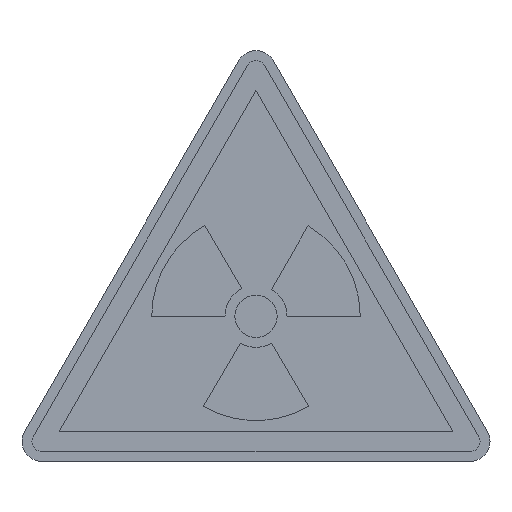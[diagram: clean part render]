
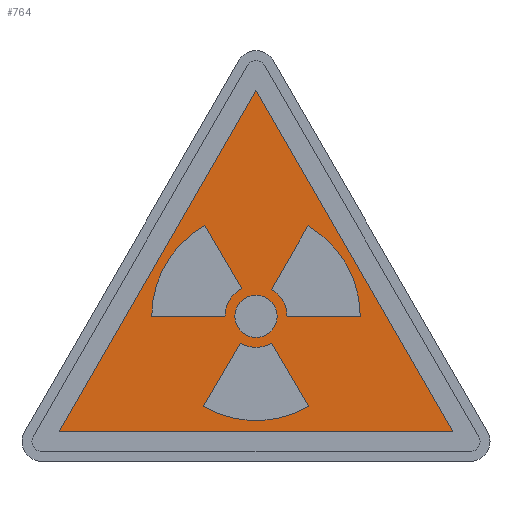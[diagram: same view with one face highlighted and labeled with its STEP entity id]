
A CAD part, top view. The second image highlights one B-rep face of the part: STEP entity #764.
In plain terms, the highlighted planar face has unit normal (0, 0, 1).
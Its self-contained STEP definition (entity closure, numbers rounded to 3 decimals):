
#3 = FACE_BOUND ( 'NONE', #1002, .T. ) ;
#8 = FACE_BOUND ( 'NONE', #1363, .T. ) ;
#13 = DIRECTION ( 'NONE',  ( 1., 0., 0. ) ) ;
#23 = CARTESIAN_POINT ( 'NONE',  ( -5.159, 23.72, 0.2 ) ) ;
#26 = FACE_BOUND ( 'NONE', #813, .T. ) ;
#49 = CARTESIAN_POINT ( 'NONE',  ( 0., 14.586, 0.2 ) ) ;
#65 = EDGE_CURVE ( 'NONE', #312, #489, #606, .T. ) ;
#68 = ORIENTED_EDGE ( 'NONE', *, *, #590, .F. ) ;
#86 = DIRECTION ( 'NONE',  ( 0., 0., 1. ) ) ;
#95 = LINE ( 'NONE', #1343, #547 ) ;
#104 = CARTESIAN_POINT ( 'NONE',  ( 1.558, 17.294, 0.2 ) ) ;
#105 = EDGE_CURVE ( 'NONE', #310, #312, #832, .T. ) ;
#114 = CARTESIAN_POINT ( 'NONE',  ( 0., 39.301, 0.2 ) ) ;
#120 = DIRECTION ( 'NONE',  ( 0., 0., 1. ) ) ;
#123 = DIRECTION ( 'NONE',  ( 0., 0., -1. ) ) ;
#127 = FACE_OUTER_BOUND ( 'NONE', #1581, .T. ) ;
#136 = EDGE_CURVE ( 'NONE', #375, #1209, #883, .T. ) ;
#144 = VERTEX_POINT ( 'NONE', #23 ) ;
#152 = ORIENTED_EDGE ( 'NONE', *, *, #136, .T. ) ;
#155 = CARTESIAN_POINT ( 'NONE',  ( -19.804, 3., 0.2 ) ) ;
#179 = EDGE_CURVE ( 'NONE', #634, #396, #518, .T. ) ;
#206 = AXIS2_PLACEMENT_3D ( 'NONE', #515, #123, #1369 ) ;
#209 = CARTESIAN_POINT ( 'NONE',  ( 19.804, 3., 0.2 ) ) ;
#220 = EDGE_CURVE ( 'NONE', #877, #780, #569, .T. ) ;
#226 = AXIS2_PLACEMENT_3D ( 'NONE', #1206, #86, #311 ) ;
#238 = ORIENTED_EDGE ( 'NONE', *, *, #711, .F. ) ;
#257 = CARTESIAN_POINT ( 'NONE',  ( -5.31, 5.538, 0.2 ) ) ;
#267 = ORIENTED_EDGE ( 'NONE', *, *, #1489, .F. ) ;
#268 = VECTOR ( 'NONE', #760, 1000. ) ;
#269 = CARTESIAN_POINT ( 'NONE',  ( -3.125, 14.586, 0.2 ) ) ;
#278 = ORIENTED_EDGE ( 'NONE', *, *, #856, .T. ) ;
#292 = VERTEX_POINT ( 'NONE', #400 ) ;
#299 = CIRCLE ( 'NONE', #538, 10.49 ) ;
#307 = VECTOR ( 'NONE', #648, 1000. ) ;
#308 = CARTESIAN_POINT ( 'NONE',  ( 19.804, 3., 0.2 ) ) ;
#309 = AXIS2_PLACEMENT_3D ( 'NONE', #114, #120, #510 ) ;
#310 = VERTEX_POINT ( 'NONE', #104 ) ;
#311 = DIRECTION ( 'NONE',  ( 1., 0., 0. ) ) ;
#312 = VERTEX_POINT ( 'NONE', #1098 ) ;
#319 = ORIENTED_EDGE ( 'NONE', *, *, #1219, .T. ) ;
#375 = VERTEX_POINT ( 'NONE', #155 ) ;
#378 = DIRECTION ( 'NONE',  ( 1., 0., 0. ) ) ;
#390 = FACE_BOUND ( 'NONE', #1167, .T. ) ;
#396 = VERTEX_POINT ( 'NONE', #1395 ) ;
#400 = CARTESIAN_POINT ( 'NONE',  ( -10.49, 14.586, 0.2 ) ) ;
#409 = CARTESIAN_POINT ( 'NONE',  ( 0., 14.586, 0.2 ) ) ;
#411 = LINE ( 'NONE', #1302, #485 ) ;
#446 = VERTEX_POINT ( 'NONE', #800 ) ;
#448 = EDGE_CURVE ( 'NONE', #489, #1058, #942, .T. ) ;
#485 = VECTOR ( 'NONE', #911, 1000. ) ;
#489 = VERTEX_POINT ( 'NONE', #575 ) ;
#493 = CARTESIAN_POINT ( 'NONE',  ( 0., 37.301, 0.2 ) ) ;
#498 = CARTESIAN_POINT ( 'NONE',  ( 1.558, 17.294, 0.2 ) ) ;
#510 = DIRECTION ( 'NONE',  ( 1., 0., 0. ) ) ;
#512 = ORIENTED_EDGE ( 'NONE', *, *, #679, .F. ) ;
#515 = CARTESIAN_POINT ( 'NONE',  ( 0., 14.586, 0.2 ) ) ;
#518 = CIRCLE ( 'NONE', #206, 3.125 ) ;
#538 = AXIS2_PLACEMENT_3D ( 'NONE', #409, #1139, #1521 ) ;
#547 = VECTOR ( 'NONE', #1210, 1000. ) ;
#569 = CIRCLE ( 'NONE', #1176, 3.125 ) ;
#575 = CARTESIAN_POINT ( 'NONE',  ( 10.49, 14.586, 0.2 ) ) ;
#577 = DIRECTION ( 'NONE',  ( 1., 0., 0. ) ) ;
#587 = CARTESIAN_POINT ( 'NONE',  ( 0., 14.586, 0.2 ) ) ;
#590 = EDGE_CURVE ( 'NONE', #396, #144, #1293, .T. ) ;
#599 = AXIS2_PLACEMENT_3D ( 'NONE', #1325, #935, #1569 ) ;
#606 = LINE ( 'NONE', #954, #855 ) ;
#622 = PLANE ( 'NONE',  #309 ) ;
#634 = VERTEX_POINT ( 'NONE', #269 ) ;
#636 = LINE ( 'NONE', #1247, #972 ) ;
#648 = DIRECTION ( 'NONE',  ( -0.506, 0.862, 0. ) ) ;
#679 = EDGE_CURVE ( 'NONE', #1162, #877, #95, .T. ) ;
#687 = CARTESIAN_POINT ( 'NONE',  ( 5.31, 5.538, 0.2 ) ) ;
#711 = EDGE_CURVE ( 'NONE', #446, #1472, #1414, .T. ) ;
#712 = DIRECTION ( 'NONE',  ( 0., 0., 1. ) ) ;
#735 = CARTESIAN_POINT ( 'NONE',  ( -1.582, 11.89, 0.2 ) ) ;
#747 = ORIENTED_EDGE ( 'NONE', *, *, #786, .F. ) ;
#755 = ORIENTED_EDGE ( 'NONE', *, *, #1455, .F. ) ;
#760 = DIRECTION ( 'NONE',  ( 1., 0., 0. ) ) ;
#764 = ADVANCED_FACE ( 'NONE', ( #3, #127, #26, #390, #8 ), #622, .T. ) ;
#780 = VERTEX_POINT ( 'NONE', #735 ) ;
#786 = EDGE_CURVE ( 'NONE', #1058, #310, #1274, .T. ) ;
#800 = CARTESIAN_POINT ( 'NONE',  ( 2.125, 14.586, 0.2 ) ) ;
#801 = DIRECTION ( 'NONE',  ( -0.5, 0.866, 0. ) ) ;
#802 = ORIENTED_EDGE ( 'NONE', *, *, #105, .F. ) ;
#810 = DIRECTION ( 'NONE',  ( 0., 0., -1. ) ) ;
#813 = EDGE_LOOP ( 'NONE', ( #68, #1042, #903, #755 ) ) ;
#832 = CIRCLE ( 'NONE', #1204, 3.125 ) ;
#855 = VECTOR ( 'NONE', #577, 1000. ) ;
#856 = EDGE_CURVE ( 'NONE', #1307, #375, #636, .T. ) ;
#861 = CARTESIAN_POINT ( 'NONE',  ( 5.231, 23.678, 0.2 ) ) ;
#871 = DIRECTION ( 'NONE',  ( 0., 0., -1. ) ) ;
#877 = VERTEX_POINT ( 'NONE', #1041 ) ;
#883 = LINE ( 'NONE', #1141, #1518 ) ;
#885 = ORIENTED_EDGE ( 'NONE', *, *, #220, .F. ) ;
#891 = CARTESIAN_POINT ( 'NONE',  ( 0., 14.586, 0.2 ) ) ;
#903 = ORIENTED_EDGE ( 'NONE', *, *, #1099, .F. ) ;
#911 = DIRECTION ( 'NONE',  ( -0.506, -0.862, 0. ) ) ;
#929 = EDGE_CURVE ( 'NONE', #1472, #446, #1197, .T. ) ;
#932 = CARTESIAN_POINT ( 'NONE',  ( -1.43, 17.364, 0.2 ) ) ;
#935 = DIRECTION ( 'NONE',  ( 0., 0., 1. ) ) ;
#942 = CIRCLE ( 'NONE', #599, 10.49 ) ;
#954 = CARTESIAN_POINT ( 'NONE',  ( 3.125, 14.586, 0.2 ) ) ;
#972 = VECTOR ( 'NONE', #1143, 1000. ) ;
#1001 = DIRECTION ( 'NONE',  ( -0.499, -0.867, 0. ) ) ;
#1002 = EDGE_LOOP ( 'NONE', ( #1080, #238 ) ) ;
#1019 = VERTEX_POINT ( 'NONE', #257 ) ;
#1030 = ORIENTED_EDGE ( 'NONE', *, *, #448, .F. ) ;
#1036 = CARTESIAN_POINT ( 'NONE',  ( -3.125, 14.586, 0.2 ) ) ;
#1041 = CARTESIAN_POINT ( 'NONE',  ( 1.582, 11.89, 0.2 ) ) ;
#1042 = ORIENTED_EDGE ( 'NONE', *, *, #179, .F. ) ;
#1058 = VERTEX_POINT ( 'NONE', #861 ) ;
#1080 = ORIENTED_EDGE ( 'NONE', *, *, #929, .F. ) ;
#1098 = CARTESIAN_POINT ( 'NONE',  ( 3.125, 14.586, 0.2 ) ) ;
#1099 = EDGE_CURVE ( 'NONE', #292, #634, #1530, .T. ) ;
#1109 = EDGE_CURVE ( 'NONE', #780, #1019, #411, .T. ) ;
#1139 = DIRECTION ( 'NONE',  ( 0., 0., 1. ) ) ;
#1141 = CARTESIAN_POINT ( 'NONE',  ( -19.804, 3., 0.2 ) ) ;
#1143 = DIRECTION ( 'NONE',  ( -0.5, -0.866, 0. ) ) ;
#1162 = VERTEX_POINT ( 'NONE', #687 ) ;
#1167 = EDGE_LOOP ( 'NONE', ( #1350, #885, #512, #267 ) ) ;
#1176 = AXIS2_PLACEMENT_3D ( 'NONE', #1323, #810, #1191 ) ;
#1191 = DIRECTION ( 'NONE',  ( 1., 0., 0. ) ) ;
#1197 = CIRCLE ( 'NONE', #226, 2.125 ) ;
#1204 = AXIS2_PLACEMENT_3D ( 'NONE', #891, #871, #13 ) ;
#1206 = CARTESIAN_POINT ( 'NONE',  ( 0., 14.586, 0.2 ) ) ;
#1209 = VERTEX_POINT ( 'NONE', #209 ) ;
#1210 = DIRECTION ( 'NONE',  ( -0.506, 0.862, 0. ) ) ;
#1219 = EDGE_CURVE ( 'NONE', #1209, #1307, #1438, .T. ) ;
#1247 = CARTESIAN_POINT ( 'NONE',  ( 0., 37.301, 0.2 ) ) ;
#1274 = LINE ( 'NONE', #498, #1443 ) ;
#1293 = LINE ( 'NONE', #932, #307 ) ;
#1302 = CARTESIAN_POINT ( 'NONE',  ( -1.582, 11.89, 0.2 ) ) ;
#1307 = VERTEX_POINT ( 'NONE', #493 ) ;
#1323 = CARTESIAN_POINT ( 'NONE',  ( 0., 14.586, 0.2 ) ) ;
#1325 = CARTESIAN_POINT ( 'NONE',  ( 0., 14.586, 0.2 ) ) ;
#1331 = CIRCLE ( 'NONE', #1565, 10.49 ) ;
#1343 = CARTESIAN_POINT ( 'NONE',  ( 1.582, 11.89, 0.2 ) ) ;
#1350 = ORIENTED_EDGE ( 'NONE', *, *, #1109, .F. ) ;
#1363 = EDGE_LOOP ( 'NONE', ( #1444, #802, #747, #1030 ) ) ;
#1369 = DIRECTION ( 'NONE',  ( 1., 0., 0. ) ) ;
#1387 = CARTESIAN_POINT ( 'NONE',  ( -2.125, 14.586, 0.2 ) ) ;
#1394 = DIRECTION ( 'NONE',  ( 1., 0., 0. ) ) ;
#1395 = CARTESIAN_POINT ( 'NONE',  ( -1.43, 17.364, 0.2 ) ) ;
#1414 = CIRCLE ( 'NONE', #1473, 2.125 ) ;
#1438 = LINE ( 'NONE', #308, #1617 ) ;
#1443 = VECTOR ( 'NONE', #1001, 1000. ) ;
#1444 = ORIENTED_EDGE ( 'NONE', *, *, #65, .F. ) ;
#1455 = EDGE_CURVE ( 'NONE', #144, #292, #1331, .T. ) ;
#1472 = VERTEX_POINT ( 'NONE', #1387 ) ;
#1473 = AXIS2_PLACEMENT_3D ( 'NONE', #587, #712, #1576 ) ;
#1489 = EDGE_CURVE ( 'NONE', #1019, #1162, #299, .T. ) ;
#1518 = VECTOR ( 'NONE', #378, 1000. ) ;
#1521 = DIRECTION ( 'NONE',  ( 1., 0., 0. ) ) ;
#1530 = LINE ( 'NONE', #1036, #268 ) ;
#1546 = DIRECTION ( 'NONE',  ( 0., 0., 1. ) ) ;
#1565 = AXIS2_PLACEMENT_3D ( 'NONE', #49, #1546, #1394 ) ;
#1569 = DIRECTION ( 'NONE',  ( 1., 0., 0. ) ) ;
#1576 = DIRECTION ( 'NONE',  ( 1., 0., 0. ) ) ;
#1581 = EDGE_LOOP ( 'NONE', ( #278, #152, #319 ) ) ;
#1617 = VECTOR ( 'NONE', #801, 1000. ) ;
